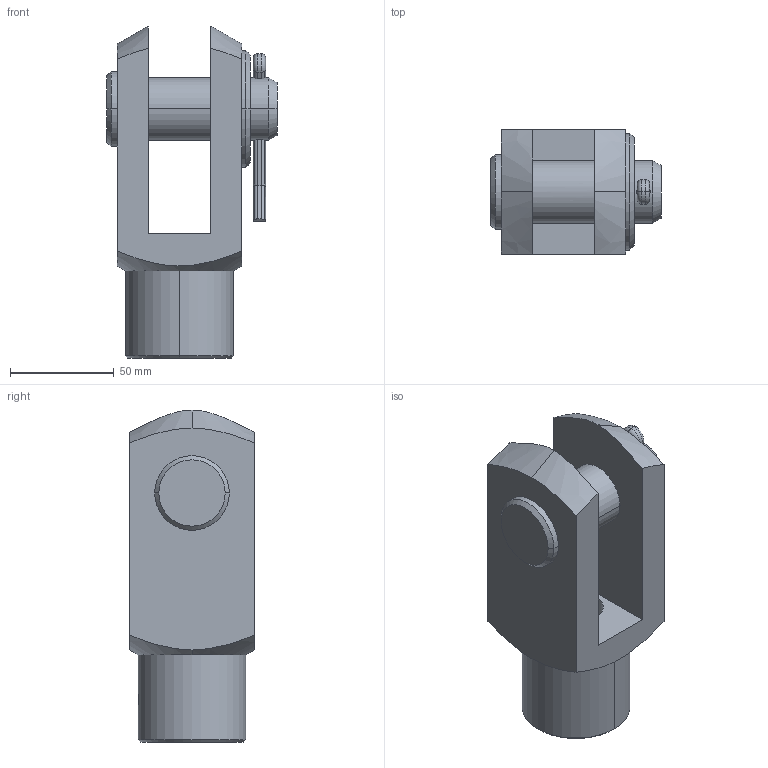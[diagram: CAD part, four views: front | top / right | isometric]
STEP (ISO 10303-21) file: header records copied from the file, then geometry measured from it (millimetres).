
FILE_DESCRIPTION (( 'STEP AP203' ), '1' );
FILE_NAME ('MJ4-GS.STEP', '2024-01-15T15:23:22', ( '' ), ( '' ), 'SwSTEP 2.0', 'SolidWorks 2022', '' );
FILE_SCHEMA (( 'CONFIG_CONTROL_DESIGN' ));
Length unit declared in the file: millimetre
Products named in the file (1): MJ4-GS
Bounding box: 82 x 60 x 160 mm (x, y, z)
Volume: 328545.5 mm3; surface area: 65448.4 mm2
Topology: 4 solids, 4 shells, 93 faces, 230 edges, 144 vertices
Faces by surface type: cylinder 48, plane 27, cone 14, torus 4
Entity records: 3140 total; most frequent: CARTESIAN_POINT 907, ORIENTED_EDGE 460, DIRECTION 442, EDGE_CURVE 230, AXIS2_PLACEMENT_3D 166, VERTEX_POINT 144, LINE 110, VECTOR 110
